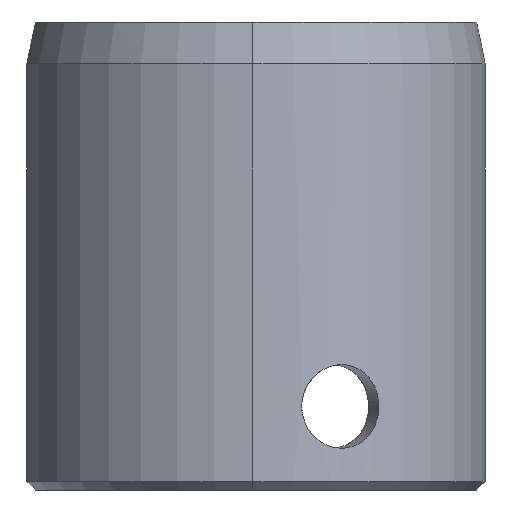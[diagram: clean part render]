
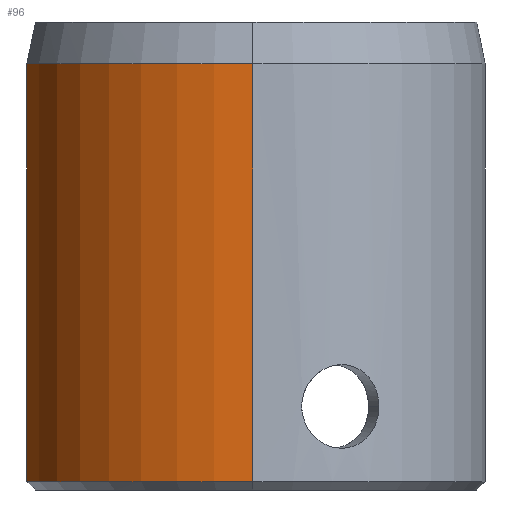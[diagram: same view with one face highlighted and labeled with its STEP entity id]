
A CAD part, left-side view. The second image highlights one B-rep face of the part: STEP entity #96.
In plain terms, the highlighted cylindrical face has radius 27.781 mm (diameter 55.562 mm), a partial arc.
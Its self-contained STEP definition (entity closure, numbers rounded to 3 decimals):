
#7 = CYLINDRICAL_SURFACE ( 'NONE', #877, 27.781 ) ;
#17 = DIRECTION ( 'NONE',  ( 0., 0., -1. ) ) ;
#18 = VERTEX_POINT ( 'NONE', #31 ) ;
#31 = CARTESIAN_POINT ( 'NONE',  ( -27.781, 0., -27. ) ) ;
#96 = ADVANCED_FACE ( 'NONE', ( #231 ), #7, .T. ) ;
#99 = DIRECTION ( 'NONE',  ( 0., 0., -1. ) ) ;
#104 = CARTESIAN_POINT ( 'NONE',  ( 0., 0., 28. ) ) ;
#150 = CARTESIAN_POINT ( 'NONE',  ( -6.35, 27.046, 23. ) ) ;
#226 = CARTESIAN_POINT ( 'NONE',  ( -27.781, 0., 28. ) ) ;
#231 = FACE_OUTER_BOUND ( 'NONE', #1022, .T. ) ;
#258 = EDGE_CURVE ( 'NONE', #768, #554, #802, .T. ) ;
#262 = AXIS2_PLACEMENT_3D ( 'NONE', #838, #981, #859 ) ;
#279 = DIRECTION ( 'NONE',  ( 1., 0., 0. ) ) ;
#327 = EDGE_CURVE ( 'NONE', #554, #712, #578, .T. ) ;
#343 = VECTOR ( 'NONE', #912, 1000. ) ;
#353 = ORIENTED_EDGE ( 'NONE', *, *, #327, .T. ) ;
#387 = LINE ( 'NONE', #226, #1040 ) ;
#390 = CARTESIAN_POINT ( 'NONE',  ( 0., 0., -27. ) ) ;
#475 = CARTESIAN_POINT ( 'NONE',  ( -6.35, 27.046, -27. ) ) ;
#512 = CIRCLE ( 'NONE', #805, 27.781 ) ;
#554 = VERTEX_POINT ( 'NONE', #150 ) ;
#562 = DIRECTION ( 'NONE',  ( 0., 0., 1. ) ) ;
#571 = ORIENTED_EDGE ( 'NONE', *, *, #1054, .T. ) ;
#578 = LINE ( 'NONE', #944, #343 ) ;
#712 = VERTEX_POINT ( 'NONE', #475 ) ;
#768 = VERTEX_POINT ( 'NONE', #1121 ) ;
#800 = ORIENTED_EDGE ( 'NONE', *, *, #258, .T. ) ;
#802 = CIRCLE ( 'NONE', #262, 27.781 ) ;
#805 = AXIS2_PLACEMENT_3D ( 'NONE', #390, #562, #279 ) ;
#838 = CARTESIAN_POINT ( 'NONE',  ( 0., 0., 23. ) ) ;
#859 = DIRECTION ( 'NONE',  ( 1., 0., 0. ) ) ;
#877 = AXIS2_PLACEMENT_3D ( 'NONE', #104, #17, #1108 ) ;
#912 = DIRECTION ( 'NONE',  ( 0., 0., -1. ) ) ;
#926 = EDGE_CURVE ( 'NONE', #768, #18, #387, .T. ) ;
#944 = CARTESIAN_POINT ( 'NONE',  ( -6.35, 27.046, 28. ) ) ;
#981 = DIRECTION ( 'NONE',  ( 0., 0., -1. ) ) ;
#1022 = EDGE_LOOP ( 'NONE', ( #1048, #800, #353, #571 ) ) ;
#1040 = VECTOR ( 'NONE', #99, 1000. ) ;
#1048 = ORIENTED_EDGE ( 'NONE', *, *, #926, .F. ) ;
#1054 = EDGE_CURVE ( 'NONE', #712, #18, #512, .T. ) ;
#1108 = DIRECTION ( 'NONE',  ( -1., 0., 0. ) ) ;
#1121 = CARTESIAN_POINT ( 'NONE',  ( -27.781, 0., 23. ) ) ;
